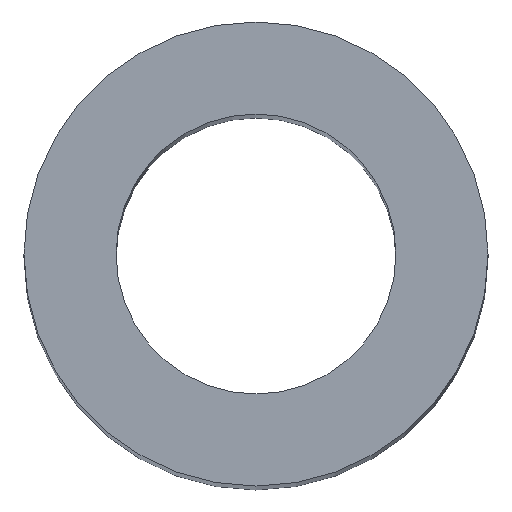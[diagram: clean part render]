
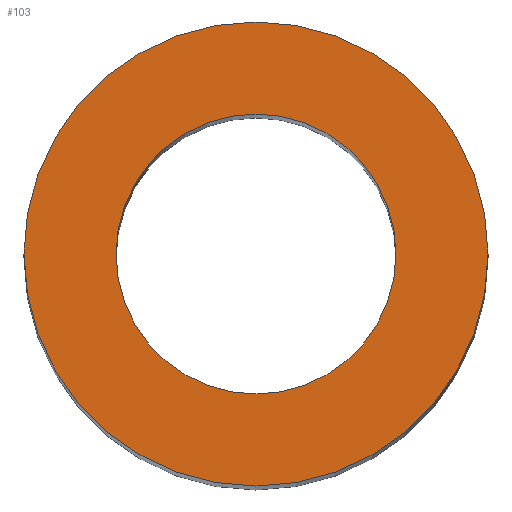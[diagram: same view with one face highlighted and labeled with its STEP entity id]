
A CAD part, top view. The second image highlights one B-rep face of the part: STEP entity #103.
In plain terms, the highlighted planar face has unit normal (0, 0, 1).
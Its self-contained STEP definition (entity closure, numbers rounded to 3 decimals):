
#2 = VERTEX_POINT ( 'NONE', #34 ) ;
#3 = EDGE_LOOP ( 'NONE', ( #87, #50 ) ) ;
#9 = DIRECTION ( 'NONE',  ( 0., 0., 1. ) ) ;
#13 = DIRECTION ( 'NONE',  ( 1., 0., 0. ) ) ;
#16 = CIRCLE ( 'NONE', #98, 19. ) ;
#24 = EDGE_CURVE ( 'NONE', #132, #2, #47, .T. ) ;
#32 = ORIENTED_EDGE ( 'NONE', *, *, #174, .T. ) ;
#34 = CARTESIAN_POINT ( 'NONE',  ( 19., 0., 305. ) ) ;
#41 = DIRECTION ( 'NONE',  ( 1., 0., 0. ) ) ;
#43 = EDGE_CURVE ( 'NONE', #93, #126, #108, .T. ) ;
#45 = CARTESIAN_POINT ( 'NONE',  ( 0., 0., 305. ) ) ;
#47 = CIRCLE ( 'NONE', #210, 19. ) ;
#50 = ORIENTED_EDGE ( 'NONE', *, *, #65, .F. ) ;
#65 = EDGE_CURVE ( 'NONE', #2, #132, #16, .T. ) ;
#66 = DIRECTION ( 'NONE',  ( 0., 0., 1. ) ) ;
#71 = CARTESIAN_POINT ( 'NONE',  ( 0., 0., 305. ) ) ;
#74 = CARTESIAN_POINT ( 'NONE',  ( -31.5, 0., 305. ) ) ;
#77 = FACE_OUTER_BOUND ( 'NONE', #213, .T. ) ;
#84 = AXIS2_PLACEMENT_3D ( 'NONE', #71, #9, #41 ) ;
#87 = ORIENTED_EDGE ( 'NONE', *, *, #24, .F. ) ;
#91 = DIRECTION ( 'NONE',  ( 1., 0., 0. ) ) ;
#93 = VERTEX_POINT ( 'NONE', #136 ) ;
#98 = AXIS2_PLACEMENT_3D ( 'NONE', #127, #195, #91 ) ;
#99 = DIRECTION ( 'NONE',  ( 0., 0., 1. ) ) ;
#102 = ORIENTED_EDGE ( 'NONE', *, *, #43, .T. ) ;
#103 = ADVANCED_FACE ( 'NONE', ( #77, #170 ), #113, .T. ) ;
#108 = CIRCLE ( 'NONE', #137, 31.5 ) ;
#112 = DIRECTION ( 'NONE',  ( 1., 0., 0. ) ) ;
#113 = PLANE ( 'NONE',  #84 ) ;
#119 = CARTESIAN_POINT ( 'NONE',  ( 0., 0., 305. ) ) ;
#124 = AXIS2_PLACEMENT_3D ( 'NONE', #119, #99, #13 ) ;
#126 = VERTEX_POINT ( 'NONE', #74 ) ;
#127 = CARTESIAN_POINT ( 'NONE',  ( 0., 0., 305. ) ) ;
#128 = CARTESIAN_POINT ( 'NONE',  ( -19., 0., 305. ) ) ;
#132 = VERTEX_POINT ( 'NONE', #128 ) ;
#136 = CARTESIAN_POINT ( 'NONE',  ( 31.5, 0., 305. ) ) ;
#137 = AXIS2_PLACEMENT_3D ( 'NONE', #203, #66, #168 ) ;
#168 = DIRECTION ( 'NONE',  ( 1., 0., 0. ) ) ;
#170 = FACE_BOUND ( 'NONE', #3, .T. ) ;
#174 = EDGE_CURVE ( 'NONE', #126, #93, #183, .T. ) ;
#183 = CIRCLE ( 'NONE', #124, 31.5 ) ;
#195 = DIRECTION ( 'NONE',  ( 0., 0., 1. ) ) ;
#198 = DIRECTION ( 'NONE',  ( 0., 0., 1. ) ) ;
#203 = CARTESIAN_POINT ( 'NONE',  ( 0., 0., 305. ) ) ;
#210 = AXIS2_PLACEMENT_3D ( 'NONE', #45, #198, #112 ) ;
#213 = EDGE_LOOP ( 'NONE', ( #32, #102 ) ) ;
